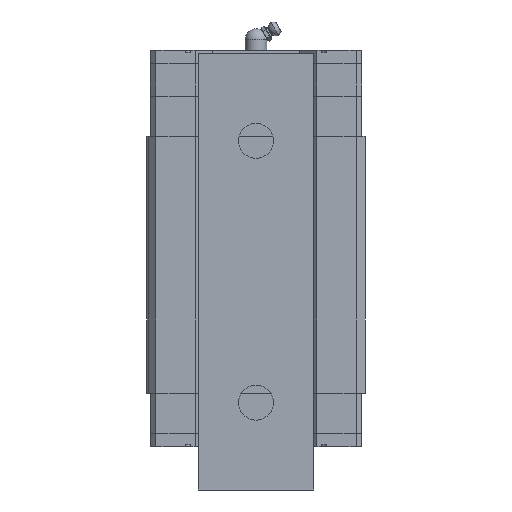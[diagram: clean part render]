
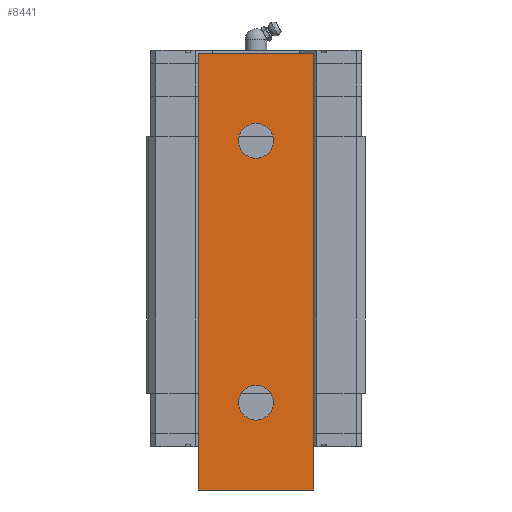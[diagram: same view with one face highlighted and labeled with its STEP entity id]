
A CAD part, front view. The second image highlights one B-rep face of the part: STEP entity #8441.
In plain terms, the highlighted planar face has unit normal (0, -1, 0).
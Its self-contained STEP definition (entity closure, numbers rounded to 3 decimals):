
#130 = DIRECTION ( 'NONE',  ( 0., 1., 0. ) ) ;
#708 = EDGE_CURVE ( 'NONE', #18217, #15380, #3373, .T. ) ;
#997 = FACE_BOUND ( 'NONE', #14839, .T. ) ;
#1151 = EDGE_CURVE ( 'NONE', #15380, #18217, #6878, .T. ) ;
#1511 = ORIENTED_EDGE ( 'NONE', *, *, #20178, .T. ) ;
#1606 = CIRCLE ( 'NONE', #21011, 8. ) ;
#2118 = EDGE_LOOP ( 'NONE', ( #12917, #5607 ) ) ;
#2276 = CARTESIAN_POINT ( 'NONE',  ( -26.5, -13., -100. ) ) ;
#3114 = VERTEX_POINT ( 'NONE', #20066 ) ;
#3373 = CIRCLE ( 'NONE', #5868, 8. ) ;
#4286 = EDGE_CURVE ( 'NONE', #20492, #21477, #17393, .T. ) ;
#4435 = DIRECTION ( 'NONE',  ( -1., 0., 0. ) ) ;
#4998 = EDGE_CURVE ( 'NONE', #21477, #3114, #22334, .T. ) ;
#5316 = CARTESIAN_POINT ( 'NONE',  ( 26.5, -13., 100. ) ) ;
#5607 = ORIENTED_EDGE ( 'NONE', *, *, #21571, .F. ) ;
#5868 = AXIS2_PLACEMENT_3D ( 'NONE', #12608, #26604, #19788 ) ;
#6878 = CIRCLE ( 'NONE', #17132, 8. ) ;
#7021 = ORIENTED_EDGE ( 'NONE', *, *, #4998, .F. ) ;
#8129 = ORIENTED_EDGE ( 'NONE', *, *, #1151, .F. ) ;
#8441 = ADVANCED_FACE ( 'NONE', ( #997, #18554, #23988 ), #11507, .F. ) ;
#8586 = CARTESIAN_POINT ( 'NONE',  ( -26.5, -13., 100. ) ) ;
#9091 = DIRECTION ( 'NONE',  ( 0., 0., -1. ) ) ;
#9938 = LINE ( 'NONE', #11331, #16932 ) ;
#10647 = DIRECTION ( 'NONE',  ( 1., 0., 0. ) ) ;
#11231 = DIRECTION ( 'NONE',  ( 1., 0., 0. ) ) ;
#11331 = CARTESIAN_POINT ( 'NONE',  ( -26.5, -13., -100. ) ) ;
#11507 = PLANE ( 'NONE',  #12079 ) ;
#12079 = AXIS2_PLACEMENT_3D ( 'NONE', #25306, #130, #4435 ) ;
#12255 = EDGE_CURVE ( 'NONE', #30202, #3114, #9938, .T. ) ;
#12608 = CARTESIAN_POINT ( 'NONE',  ( 0., -13., -60. ) ) ;
#12642 = DIRECTION ( 'NONE',  ( 0., 0., -1. ) ) ;
#12705 = VECTOR ( 'NONE', #12642, 1000. ) ;
#12917 = ORIENTED_EDGE ( 'NONE', *, *, #17206, .F. ) ;
#13348 = ORIENTED_EDGE ( 'NONE', *, *, #708, .F. ) ;
#13630 = CARTESIAN_POINT ( 'NONE',  ( 0., -13., -52. ) ) ;
#14839 = EDGE_LOOP ( 'NONE', ( #8129, #13348 ) ) ;
#15078 = VERTEX_POINT ( 'NONE', #24948 ) ;
#15247 = DIRECTION ( 'NONE',  ( 0., -1., 0. ) ) ;
#15380 = VERTEX_POINT ( 'NONE', #23222 ) ;
#15475 = CIRCLE ( 'NONE', #29906, 8. ) ;
#15733 = VECTOR ( 'NONE', #9091, 1000. ) ;
#15882 = VECTOR ( 'NONE', #10647, 1000. ) ;
#16932 = VECTOR ( 'NONE', #11231, 1000. ) ;
#17132 = AXIS2_PLACEMENT_3D ( 'NONE', #22268, #29039, #24432 ) ;
#17160 = VERTEX_POINT ( 'NONE', #27919 ) ;
#17206 = EDGE_CURVE ( 'NONE', #17160, #15078, #15475, .T. ) ;
#17393 = LINE ( 'NONE', #8586, #15882 ) ;
#17632 = CARTESIAN_POINT ( 'NONE',  ( 0., -13., 60. ) ) ;
#18217 = VERTEX_POINT ( 'NONE', #13630 ) ;
#18235 = CARTESIAN_POINT ( 'NONE',  ( -26.5, -13., 100. ) ) ;
#18405 = ORIENTED_EDGE ( 'NONE', *, *, #4286, .F. ) ;
#18554 = FACE_BOUND ( 'NONE', #2118, .T. ) ;
#18953 = LINE ( 'NONE', #21921, #12705 ) ;
#19788 = DIRECTION ( 'NONE',  ( 0., 0., -1. ) ) ;
#20066 = CARTESIAN_POINT ( 'NONE',  ( 26.5, -13., -100. ) ) ;
#20178 = EDGE_CURVE ( 'NONE', #20492, #30202, #18953, .T. ) ;
#20214 = EDGE_LOOP ( 'NONE', ( #1511, #22053, #7021, #18405 ) ) ;
#20492 = VERTEX_POINT ( 'NONE', #18235 ) ;
#20720 = DIRECTION ( 'NONE',  ( 0., -1., 0. ) ) ;
#21011 = AXIS2_PLACEMENT_3D ( 'NONE', #17632, #15247, #24521 ) ;
#21477 = VERTEX_POINT ( 'NONE', #5316 ) ;
#21571 = EDGE_CURVE ( 'NONE', #15078, #17160, #1606, .T. ) ;
#21921 = CARTESIAN_POINT ( 'NONE',  ( -26.5, -13., 100. ) ) ;
#22053 = ORIENTED_EDGE ( 'NONE', *, *, #12255, .T. ) ;
#22268 = CARTESIAN_POINT ( 'NONE',  ( 0., -13., -60. ) ) ;
#22334 = LINE ( 'NONE', #23011, #15733 ) ;
#23011 = CARTESIAN_POINT ( 'NONE',  ( 26.5, -13., 100. ) ) ;
#23222 = CARTESIAN_POINT ( 'NONE',  ( 0., -13., -68. ) ) ;
#23773 = DIRECTION ( 'NONE',  ( 0., 0., -1. ) ) ;
#23988 = FACE_OUTER_BOUND ( 'NONE', #20214, .T. ) ;
#24432 = DIRECTION ( 'NONE',  ( 0., 0., -1. ) ) ;
#24521 = DIRECTION ( 'NONE',  ( 0., 0., -1. ) ) ;
#24948 = CARTESIAN_POINT ( 'NONE',  ( 0., -13., 68. ) ) ;
#25306 = CARTESIAN_POINT ( 'NONE',  ( -26.5, -13., 100. ) ) ;
#26604 = DIRECTION ( 'NONE',  ( 0., -1., 0. ) ) ;
#27919 = CARTESIAN_POINT ( 'NONE',  ( 0., -13., 52. ) ) ;
#28354 = CARTESIAN_POINT ( 'NONE',  ( 0., -13., 60. ) ) ;
#29039 = DIRECTION ( 'NONE',  ( 0., -1., 0. ) ) ;
#29906 = AXIS2_PLACEMENT_3D ( 'NONE', #28354, #20720, #23773 ) ;
#30202 = VERTEX_POINT ( 'NONE', #2276 ) ;
